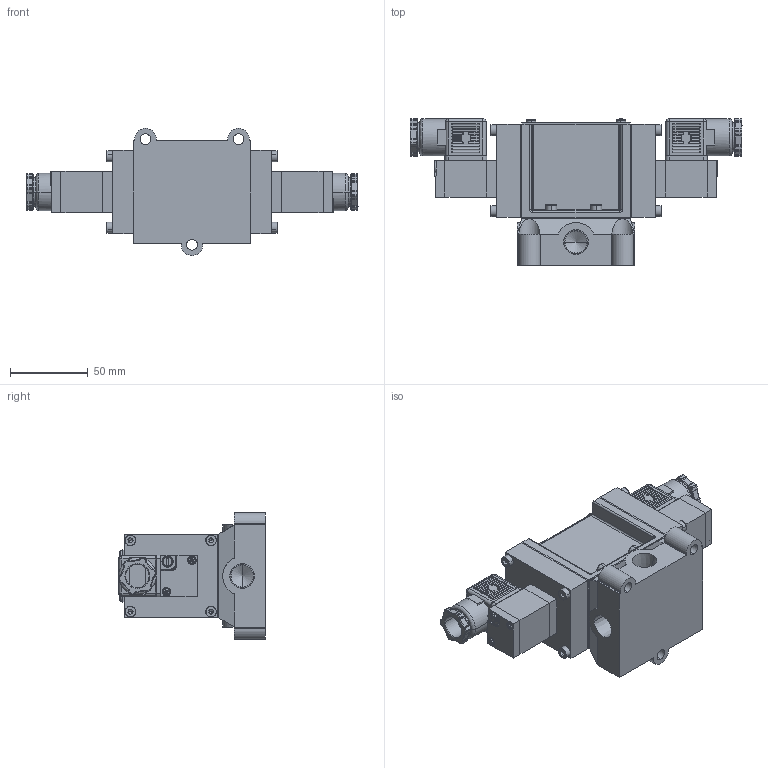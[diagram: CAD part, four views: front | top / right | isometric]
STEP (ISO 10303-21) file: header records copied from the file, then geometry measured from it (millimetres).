
FILE_DESCRIPTION (( 'STEP AP203' ), '1' );
FILE_NAME ('PMD2408#-03-#C#.STEP', '2016-03-09T06:21:55', ( 'Sam Lin' ), ( '' ), 'SwSTEP 2.0', 'SolidWorks 2013', '' );
FILE_SCHEMA (( 'CONFIG_CONTROL_DESIGN' ));
Length unit declared in the file: metre
Products named in the file (16): PMS2408-4; PM06-C6-M3_1; PMS2408-5; PM06-C5_1; PMS2408-7; PMS2306-6(C)_1; PMS2408-8; ISO 4762 M4 x 10; PM08-MARK-2408; PM06-C3-M4_1; PMS2408-1(03); PMS2408-2; PMD2408#-03-#C#; PM06-C1_1; PMS2408-3; PM06-C4_1
Assembly tree (38 placements, depth 2):
  PMD2408#-03-#C#
    PMS2408-2
    PMS2408-3
    PMS2408-4  x2
    PMS2408-5  x2
    PMS2408-7
    PMS2408-8  x2
    PM08-MARK-2408
    PM06-C3-M4_1  x4
    PMS2408-1(03)
    PM06-C1_1  x2
    PM06-C4_1  x2
    PM06-C6-M3_1  x4
    PM06-C5_1  x2
    PMS2306-6(C)_1  x2
    ISO 4762 M4 x 10  x11
Bounding box: 214 x 94.64 x 82 mm (x, y, z)
Volume: 506380.4 mm3; surface area: 132058.8 mm2
Topology: 44 solids, 44 shells, 1583 faces, 3940 edges, 2249 vertices
Faces by surface type: plane 614, cylinder 439, bspline 396, cone 134
Entity records: 30453 total; most frequent: CARTESIAN_POINT 12310, ORIENTED_EDGE 3368, DIRECTION 3149, EDGE_CURVE 1684, AXIS2_PLACEMENT_3D 1165, VERTEX_POINT 1053, LINE 819, VECTOR 819
